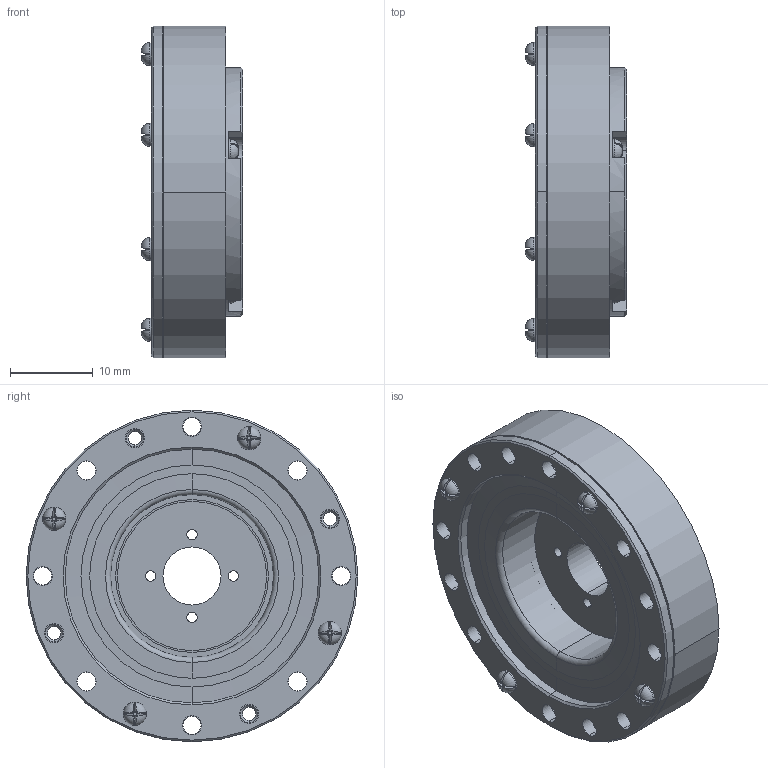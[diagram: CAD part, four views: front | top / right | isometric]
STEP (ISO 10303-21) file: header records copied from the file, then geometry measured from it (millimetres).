
FILE_DESCRIPTION (( 'STEP AP214' ), '1' );
FILE_NAME ('SHD-08-熬厒ん軞傖.STEP', '2020-09-16T02:03:20', ( 'PC' ), ( 'Microsoft' ), 'SwSTEP 2.0', 'SolidWorks 2016', '' );
FILE_SCHEMA (( 'AUTOMOTIVE_DESIGN' ));
Length unit declared in the file: millimetre
Products named in the file (13): SHD-08-詩謫; SHD-08-柔轮SLDPRT_預設; SHD-08-疏楷汜ん_蕼偞; SHD-08-柔性轴承_預設; SHD-08-芧謫_蕼偞; SHD-08蝠脫粣創_蕼偞; M1.6-蹟隊_蕼偞; SHD-08-蝠脫粣創黑芛; SHD-08-交叉轴承内圈; SHD-08-交叉轴承外圈; SHD-08-熬厒ん軞傖; 2.0-幗紩_蕼偞; 32.5x1.5O型圈_預設
Assembly tree (65 placements, depth 3):
  SHD-08-熬厒ん軞傖
    SHD-08蝠脫粣創_蕼偞
      SHD-08-交叉轴承外圈
      SHD-08-交叉轴承内圈
      SHD-08-蝠脫粣創黑芛
      M1.6-蹟隊_蕼偞
    SHD-08-疏楷汜ん_蕼偞
      SHD-08-芧謫_蕼偞
      SHD-08-柔性轴承_預設
    SHD-08-柔轮SLDPRT_預設
    SHD-08-詩謫
    M1.6-蹟隊_蕼偞  x8
    32.5x1.5O型圈_預設
    2.0-幗紩_蕼偞  x46
Bounding box: 12.2 x 40 x 40 mm (x, y, z)
Volume: 8194 mm3; surface area: 13434.7 mm2
Topology: 63 solids, 63 shells, 980 faces, 2130 edges, 1282 vertices
Faces by surface type: cylinder 321, plane 275, torus 230, cone 154
Entity records: 13274 total; most frequent: DIRECTION 2354, CARTESIAN_POINT 2113, ORIENTED_EDGE 1860, AXIS2_PLACEMENT_3D 995, EDGE_CURVE 930, VERTEX_POINT 586, CIRCLE 537, EDGE_LOOP 524
